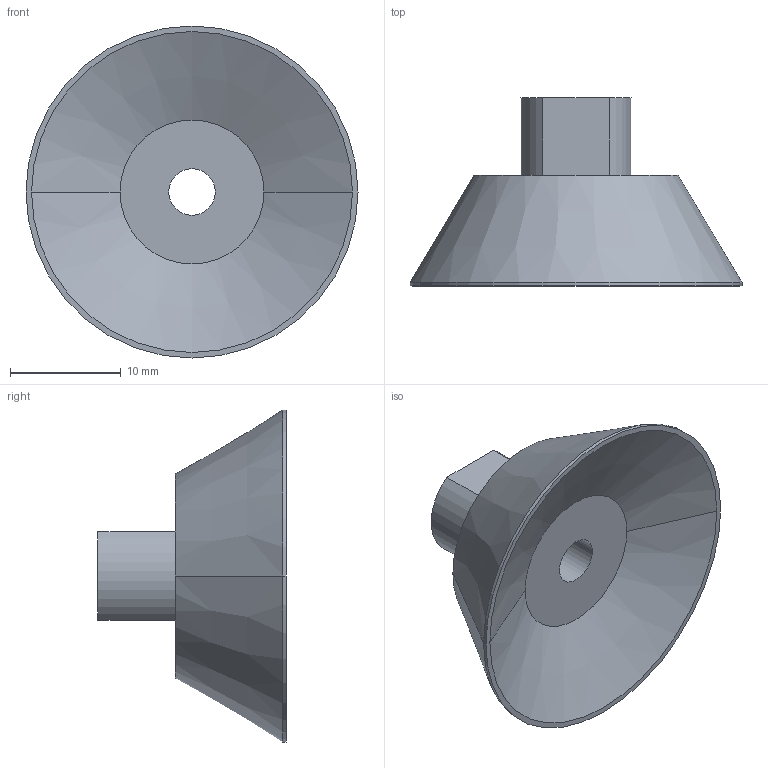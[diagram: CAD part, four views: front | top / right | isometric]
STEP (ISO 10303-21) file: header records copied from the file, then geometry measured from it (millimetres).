
FILE_DESCRIPTION((''),'2;1');
FILE_NAME('7320302000','2015-05-05T',('pma1hc'),(''),'PRO/ENGINEER BY PARAMETRIC TECHNOLOGY CORPORATION, 2011490','PRO/ENGINEER BY PARAMETRIC TECHNOLOGY CORPORATION, 2011490','');
FILE_SCHEMA(('AUTOMOTIVE_DESIGN_CC2 { 1 2 10303 214 -1 1 5 2 }'));
Length unit declared in the file: millimetre
Products named in the file (1): 7320302000
Bounding box: 30 x 17 x 30 mm (x, y, z)
Volume: 3801.6 mm3; surface area: 2271.4 mm2
Topology: 1 solids, 1 shells, 18 faces, 38 edges, 24 vertices
Faces by surface type: plane 6, cone 6, cylinder 6
Entity records: 503 total; most frequent: DIRECTION 94, CARTESIAN_POINT 80, ORIENTED_EDGE 76, AXIS2_PLACEMENT_3D 38, EDGE_CURVE 38, VERTEX_POINT 24, EDGE_LOOP 22, CIRCLE 20
